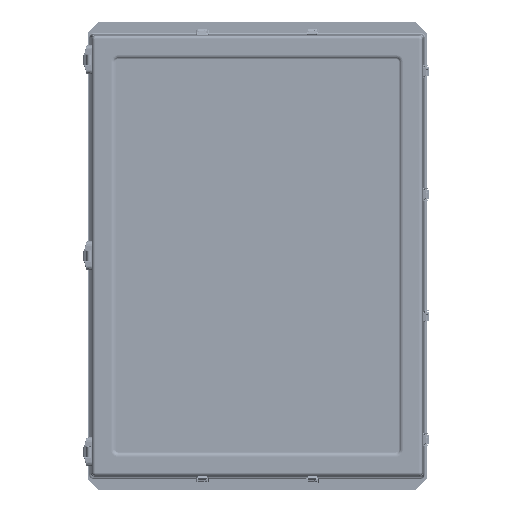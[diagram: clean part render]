
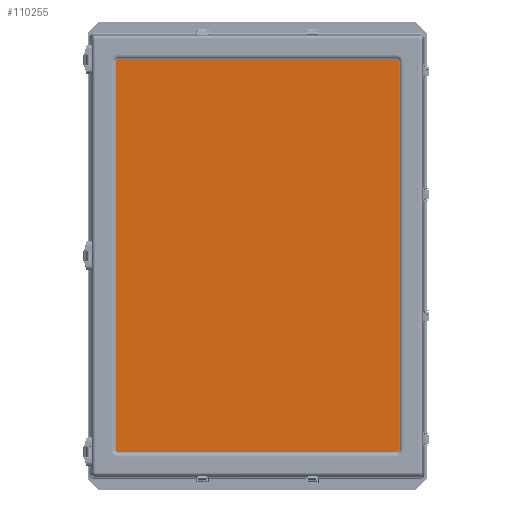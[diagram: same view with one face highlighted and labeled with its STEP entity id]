
A CAD part, top view. The second image highlights one B-rep face of the part: STEP entity #110255.
In plain terms, the highlighted planar face has unit normal (0, 0, 1).
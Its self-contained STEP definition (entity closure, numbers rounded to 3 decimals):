
#8606 = CARTESIAN_POINT ( 'NONE',  ( 15.188, -21.188, 1.06 ) ) ;
#8633 = DIRECTION ( 'NONE',  ( 0., 0., 1. ) ) ;
#8636 = DIRECTION ( 'NONE',  ( 1., 0., 0. ) ) ;
#9589 = CARTESIAN_POINT ( 'NONE',  ( -15.188, -21.188, 1.06 ) ) ;
#9590 = DIRECTION ( 'NONE',  ( 0., 0., 1. ) ) ;
#9591 = DIRECTION ( 'NONE',  ( 1., 0., 0. ) ) ;
#9834 = CARTESIAN_POINT ( 'NONE',  ( -15.188, 21.471, 1.06 ) ) ;
#9835 = DIRECTION ( 'NONE',  ( -1., 0., 0. ) ) ;
#11523 = AXIS2_PLACEMENT_3D ( 'NONE', #70327, #70331, #70332 ) ;
#12368 = CARTESIAN_POINT ( 'NONE',  ( -15.471, -21.188, 1.06 ) ) ;
#12389 = DIRECTION ( 'NONE',  ( 0., -1., 0. ) ) ;
#13532 = CARTESIAN_POINT ( 'NONE',  ( 15.188, -21.471, 1.06 ) ) ;
#13534 = DIRECTION ( 'NONE',  ( 1., 0., 0. ) ) ;
#13645 = CARTESIAN_POINT ( 'NONE',  ( 15.188, 21.188, 1.06 ) ) ;
#13657 = CARTESIAN_POINT ( 'NONE',  ( 15.471, 21.188, 1.06 ) ) ;
#13659 = DIRECTION ( 'NONE',  ( 0., 1., 0. ) ) ;
#13674 = DIRECTION ( 'NONE',  ( 0., 0., 1. ) ) ;
#13676 = DIRECTION ( 'NONE',  ( 1., 0., 0. ) ) ;
#14843 = AXIS2_PLACEMENT_3D ( 'NONE', #13645, #13674, #13676 ) ;
#16338 = AXIS2_PLACEMENT_3D ( 'NONE', #9589, #9590, #9591 ) ;
#24369 = EDGE_CURVE ( 'NONE', #53019, #53047, #102382, .T. ) ;
#25240 = EDGE_CURVE ( 'NONE', #53004, #52633, #103162, .T. ) ;
#25533 = EDGE_CURVE ( 'NONE', #53047, #52649, #103370, .T. ) ;
#26138 = EDGE_CURVE ( 'NONE', #52759, #53004, #103859, .T. ) ;
#26193 = EDGE_CURVE ( 'NONE', #52633, #52886, #103933, .T. ) ;
#26203 = EDGE_CURVE ( 'NONE', #52886, #52835, #103959, .T. ) ;
#34689 = CARTESIAN_POINT ( 'NONE',  ( 15.471, -21.188, 1.06 ) ) ;
#34718 = CARTESIAN_POINT ( 'NONE',  ( -15.471, -21.188, 1.06 ) ) ;
#34911 = CARTESIAN_POINT ( 'NONE',  ( -15.188, -21.471, 1.06 ) ) ;
#35048 = CARTESIAN_POINT ( 'NONE',  ( 15.188, 21.471, 1.06 ) ) ;
#35133 = CARTESIAN_POINT ( 'NONE',  ( 15.471, 21.188, 1.06 ) ) ;
#41268 = ORIENTED_EDGE ( 'NONE', *, *, #26193, .T. ) ;
#41269 = ORIENTED_EDGE ( 'NONE', *, *, #26203, .T. ) ;
#41270 = ORIENTED_EDGE ( 'NONE', *, *, #96189, .T. ) ;
#41271 = ORIENTED_EDGE ( 'NONE', *, *, #24369, .T. ) ;
#41272 = ORIENTED_EDGE ( 'NONE', *, *, #25533, .T. ) ;
#41273 = ORIENTED_EDGE ( 'NONE', *, *, #96129, .T. ) ;
#41274 = ORIENTED_EDGE ( 'NONE', *, *, #26138, .T. ) ;
#41275 = ORIENTED_EDGE ( 'NONE', *, *, #25240, .T. ) ;
#49369 = FACE_OUTER_BOUND ( 'NONE', #58059, .T. ) ;
#52633 = VERTEX_POINT ( 'NONE', #34689 ) ;
#52649 = VERTEX_POINT ( 'NONE', #34718 ) ;
#52759 = VERTEX_POINT ( 'NONE', #34911 ) ;
#52835 = VERTEX_POINT ( 'NONE', #35048 ) ;
#52886 = VERTEX_POINT ( 'NONE', #35133 ) ;
#53004 = VERTEX_POINT ( 'NONE', #92408 ) ;
#53019 = VERTEX_POINT ( 'NONE', #92434 ) ;
#53047 = VERTEX_POINT ( 'NONE', #92478 ) ;
#58059 = EDGE_LOOP ( 'NONE', ( #41268, #41269, #41270, #41271, #41272, #41273, #41274, #41275 ) ) ;
#70324 = PLANE ( 'NONE',  #11523 ) ;
#70327 = CARTESIAN_POINT ( 'NONE',  ( -15.188, 21.188, 1.06 ) ) ;
#70331 = DIRECTION ( 'NONE',  ( 0., 0., 1. ) ) ;
#70332 = DIRECTION ( 'NONE',  ( 1., 0., 0. ) ) ;
#79996 = CARTESIAN_POINT ( 'NONE',  ( -15.188, 21.188, 1.06 ) ) ;
#79997 = DIRECTION ( 'NONE',  ( 0., 0., 1. ) ) ;
#79998 = DIRECTION ( 'NONE',  ( 1., 0., 0. ) ) ;
#88560 = AXIS2_PLACEMENT_3D ( 'NONE', #79996, #79997, #79998 ) ;
#88847 = AXIS2_PLACEMENT_3D ( 'NONE', #8606, #8633, #8636 ) ;
#92408 = CARTESIAN_POINT ( 'NONE',  ( 15.188, -21.471, 1.06 ) ) ;
#92434 = CARTESIAN_POINT ( 'NONE',  ( -15.188, 21.471, 1.06 ) ) ;
#92478 = CARTESIAN_POINT ( 'NONE',  ( -15.471, 21.188, 1.06 ) ) ;
#96129 = EDGE_CURVE ( 'NONE', #52649, #52759, #108756, .T. ) ;
#96189 = EDGE_CURVE ( 'NONE', #52835, #53019, #108812, .T. ) ;
#102382 = CIRCLE ( 'NONE', #88560, 0.282 ) ;
#103162 = CIRCLE ( 'NONE', #88847, 0.282 ) ;
#103347 = VECTOR ( 'NONE', #12389, 39.37 ) ;
#103370 = LINE ( 'NONE', #12368, #103347 ) ;
#103859 = LINE ( 'NONE', #13532, #103861 ) ;
#103861 = VECTOR ( 'NONE', #13534, 39.37 ) ;
#103933 = LINE ( 'NONE', #13657, #103939 ) ;
#103939 = VECTOR ( 'NONE', #13659, 39.37 ) ;
#103959 = CIRCLE ( 'NONE', #14843, 0.282 ) ;
#108756 = CIRCLE ( 'NONE', #16338, 0.282 ) ;
#108809 = VECTOR ( 'NONE', #9835, 39.37 ) ;
#108812 = LINE ( 'NONE', #9834, #108809 ) ;
#110255 = ADVANCED_FACE ( 'NONE', ( #49369 ), #70324, .T. ) ;
